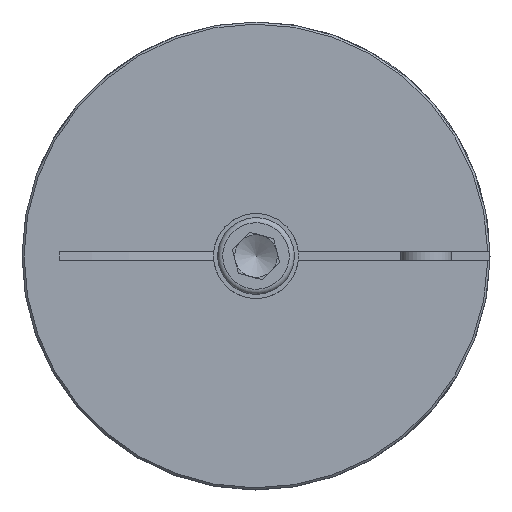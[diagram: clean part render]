
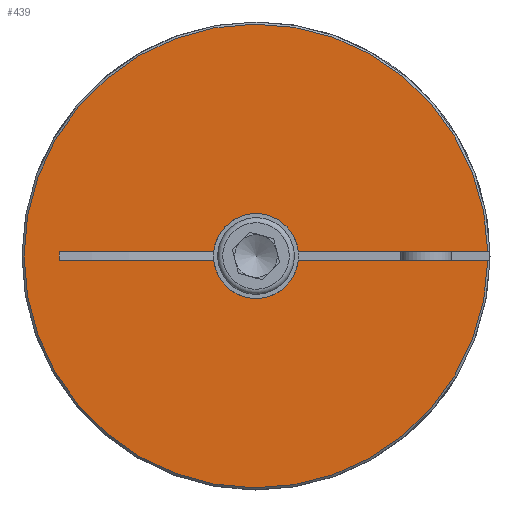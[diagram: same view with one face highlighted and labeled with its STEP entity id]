
A CAD part, left-side view. The second image highlights one B-rep face of the part: STEP entity #439.
In plain terms, the highlighted planar face has unit normal (-1, 0, 0).
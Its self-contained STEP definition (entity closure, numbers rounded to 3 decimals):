
#439 = ADVANCED_FACE( 'NONE', ( #913 ), #914, .F. );
#913 = FACE_OUTER_BOUND( '', #1408, .T. );
#914 = PLANE( '', #1409 );
#1408 = EDGE_LOOP( '', ( #2202, #2203, #2204, #2205, #2206, #2207, #2208, #2209 ) );
#1409 = AXIS2_PLACEMENT_3D( '', #2210, #2211, #2212 );
#2202 = ORIENTED_EDGE( '', *, *, #2591, .T. );
#2203 = ORIENTED_EDGE( '', *, *, #2630, .F. );
#2204 = ORIENTED_EDGE( '', *, *, #2477, .T. );
#2205 = ORIENTED_EDGE( '', *, *, #2498, .T. );
#2206 = ORIENTED_EDGE( '', *, *, #2703, .F. );
#2207 = ORIENTED_EDGE( '', *, *, #2632, .F. );
#2208 = ORIENTED_EDGE( '', *, *, #2704, .F. );
#2209 = ORIENTED_EDGE( '', *, *, #2555, .T. );
#2210 = CARTESIAN_POINT( '', ( 0., 15., 0. ) );
#2211 = DIRECTION( '', ( 1., 0., 0. ) );
#2212 = DIRECTION( '', ( 0., 1., 0. ) );
#2477 = EDGE_CURVE( '', #2837, #2844, #2846, .T. );
#2498 = EDGE_CURVE( 'NONE', #2844, #2881, #2882, .F. );
#2555 = EDGE_CURVE( 'NONE', #2963, #2967, #2969, .T. );
#2591 = EDGE_CURVE( 'NONE', #2967, #3016, #3018, .T. );
#2630 = EDGE_CURVE( '', #2837, #3016, #3065, .T. );
#2632 = EDGE_CURVE( '', #3066, #3068, #3069, .T. );
#2703 = EDGE_CURVE( '', #3068, #2881, #3158, .F. );
#2704 = EDGE_CURVE( 'NONE', #2963, #3066, #3159, .F. );
#2837 = VERTEX_POINT( '', #3315 );
#2844 = VERTEX_POINT( 'NONE', #3325 );
#2846 = LINE( '', #3330, #3331 );
#2881 = VERTEX_POINT( 'NONE', #3371 );
#2882 = CIRCLE( '', #3372, 54.5 );
#2963 = VERTEX_POINT( 'NONE', #3549 );
#2967 = VERTEX_POINT( 'NONE', #3556 );
#2969 = LINE( '', #3558, #3559 );
#3016 = VERTEX_POINT( '', #3618 );
#3018 = LINE( '', #3621, #3622 );
#3065 = CIRCLE( '', #3673, 10. );
#3066 = VERTEX_POINT( '', #3674 );
#3068 = VERTEX_POINT( '', #3677 );
#3069 = CIRCLE( '', #3678, 10. );
#3158 = LINE( '', #3867, #3868 );
#3159 = LINE( '', #3869, #3870 );
#3315 = CARTESIAN_POINT( '', ( 0., -9.95, 1. ) );
#3325 = CARTESIAN_POINT( '', ( 0., -54.491, 1. ) );
#3330 = CARTESIAN_POINT( '', ( 0., 15., 1. ) );
#3331 = VECTOR( '', #3999, 1000. );
#3371 = CARTESIAN_POINT( '', ( 0., -54.491, -1. ) );
#3372 = AXIS2_PLACEMENT_3D( '', #4032, #4033, #4034 );
#3549 = CARTESIAN_POINT( '', ( 0., 46.303, -1. ) );
#3556 = CARTESIAN_POINT( '', ( 0., 46.303, 1. ) );
#3558 = CARTESIAN_POINT( '', ( 0., 46.303, -1. ) );
#3559 = VECTOR( '', #4113, 1000. );
#3618 = CARTESIAN_POINT( '', ( 0., 9.95, 1. ) );
#3621 = CARTESIAN_POINT( '', ( 0., 15., 1. ) );
#3622 = VECTOR( '', #4154, 1000. );
#3673 = AXIS2_PLACEMENT_3D( '', #4216, #4217, #4218 );
#3674 = CARTESIAN_POINT( '', ( 0., 9.95, -1. ) );
#3677 = CARTESIAN_POINT( '', ( 0., -9.95, -1. ) );
#3678 = AXIS2_PLACEMENT_3D( '', #4220, #4221, #4222 );
#3867 = CARTESIAN_POINT( '', ( 0., -15., -1. ) );
#3868 = VECTOR( '', #4297, 1000. );
#3869 = CARTESIAN_POINT( '', ( 0., -15., -1. ) );
#3870 = VECTOR( '', #4298, 1000. );
#3999 = DIRECTION( '', ( 0., -1., 0. ) );
#4032 = CARTESIAN_POINT( '', ( 0., 0., 0. ) );
#4033 = DIRECTION( '', ( 1., 0., 0. ) );
#4034 = DIRECTION( '', ( 0., 0., -1. ) );
#4113 = DIRECTION( '', ( 0., 0., 1. ) );
#4154 = DIRECTION( '', ( 0., -1., 0. ) );
#4216 = CARTESIAN_POINT( '', ( 0., 0., 0. ) );
#4217 = DIRECTION( '', ( -1., 0., 0. ) );
#4218 = DIRECTION( '', ( 0., 0., 1. ) );
#4220 = CARTESIAN_POINT( '', ( 0., 0., 0. ) );
#4221 = DIRECTION( '', ( -1., 0., 0. ) );
#4222 = DIRECTION( '', ( 0., 0., 1. ) );
#4297 = DIRECTION( '', ( 0., 1., 0. ) );
#4298 = DIRECTION( '', ( 0., 1., 0. ) );
